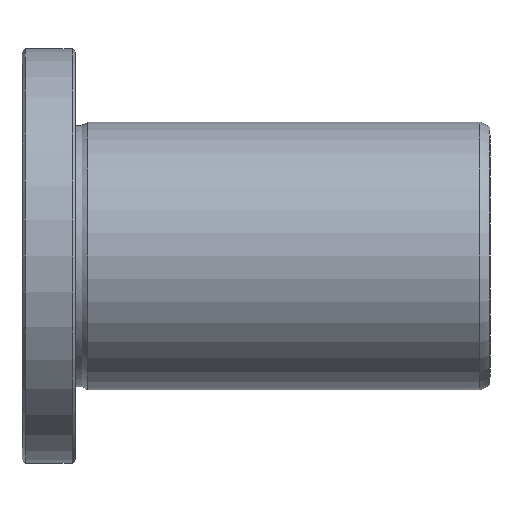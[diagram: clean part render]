
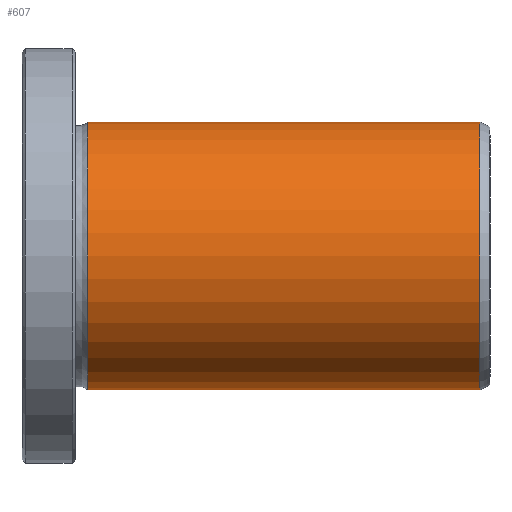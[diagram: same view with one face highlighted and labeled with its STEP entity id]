
A CAD part, front view. The second image highlights one B-rep face of the part: STEP entity #607.
In plain terms, the highlighted cylindrical face has radius 20 mm (diameter 40 mm), a full revolution.
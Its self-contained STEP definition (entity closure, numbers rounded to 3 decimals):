
#573=CARTESIAN_POINT('',(68.502,0.0,20.));
#574=VERTEX_POINT('',#573);
#575=CARTESIAN_POINT('',(68.502,0.0,0.0));
#576=DIRECTION('',(-1.0,0.0,0.0));
#577=DIRECTION('',(0.0,0.0,1.0));
#578=AXIS2_PLACEMENT_3D('',#575,#576,#577);
#579=CIRCLE('',#578,20.);
#580=EDGE_CURVE('',#574,#574,#579,.T.);
#588=CARTESIAN_POINT('',(39.162,0.0,0.0));
#589=DIRECTION('',(-1.0,0.0,0.0));
#590=DIRECTION('',(0.0,0.0,1.0));
#591=AXIS2_PLACEMENT_3D('',#588,#589,#590);
#592=CYLINDRICAL_SURFACE('',#591,20.);
#593=CARTESIAN_POINT('',(9.823,0.0,20.0));
#594=VERTEX_POINT('',#593);
#595=CARTESIAN_POINT('',(9.823,0.0,0.0));
#596=DIRECTION('',(-1.0,0.0,0.0));
#597=DIRECTION('',(0.0,0.0,1.0));
#598=AXIS2_PLACEMENT_3D('',#595,#596,#597);
#599=CIRCLE('',#598,20.0);
#600=EDGE_CURVE('',#594,#594,#599,.T.);
#601=ORIENTED_EDGE('',*,*,#600,.F.);
#602=EDGE_LOOP('',(#601));
#603=FACE_OUTER_BOUND('',#602,.T.);
#604=ORIENTED_EDGE('',*,*,#580,.T.);
#605=EDGE_LOOP('',(#604));
#606=FACE_BOUND('',#605,.T.);
#607=ADVANCED_FACE('',(#603,#606),#592,.T.);
